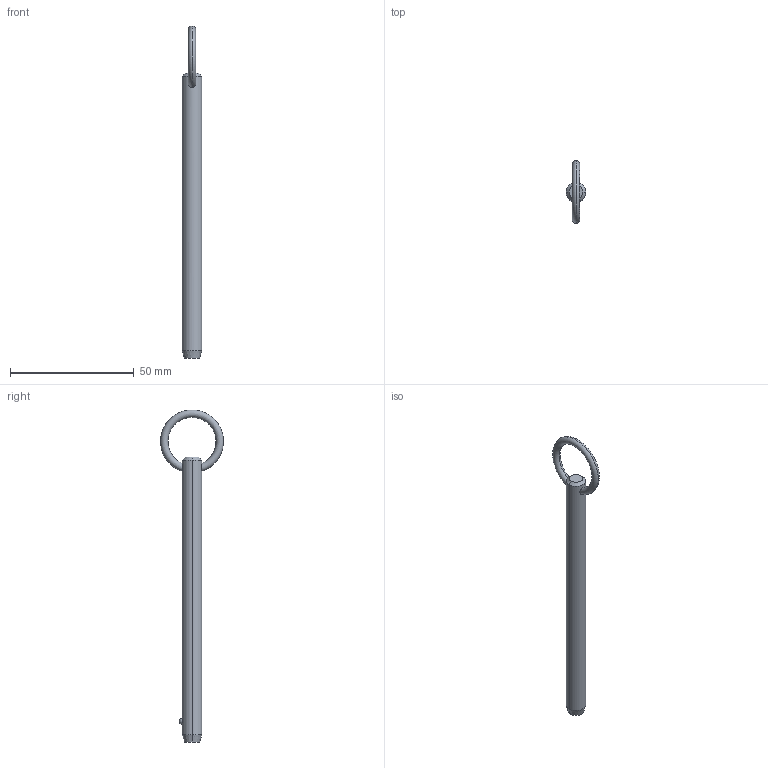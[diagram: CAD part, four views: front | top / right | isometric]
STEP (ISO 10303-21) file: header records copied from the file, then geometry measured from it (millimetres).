
FILE_DESCRIPTION (( 'STEP AP203' ), '1' );
FILE_NAME ('P1250.031-390.step', '2019-07-29T19:55:05', ( '' ), ( '' ), 'SwSTEP 2.0', 'SolidWorks 2017', '' );
FILE_SCHEMA (( 'CONFIG_CONTROL_DESIGN' ));
Length unit declared in the file: millimetre
Products named in the file (1): P1250.031-390
Bounding box: 7.93 x 25.36 x 134.01 mm (x, y, z)
Volume: 6078.8 mm3; surface area: 3499.6 mm2
Topology: 1 solids, 1 shells, 12 faces, 28 edges, 17 vertices
Faces by surface type: cone 4, torus 2, sphere 2, cylinder 2, plane 2
Entity records: 509 total; most frequent: CARTESIAN_POINT 176, DIRECTION 56, ORIENTED_EDGE 48, AXIS2_PLACEMENT_3D 25, EDGE_CURVE 24, VERTEX_POINT 15, EDGE_LOOP 15, CIRCLE 12
